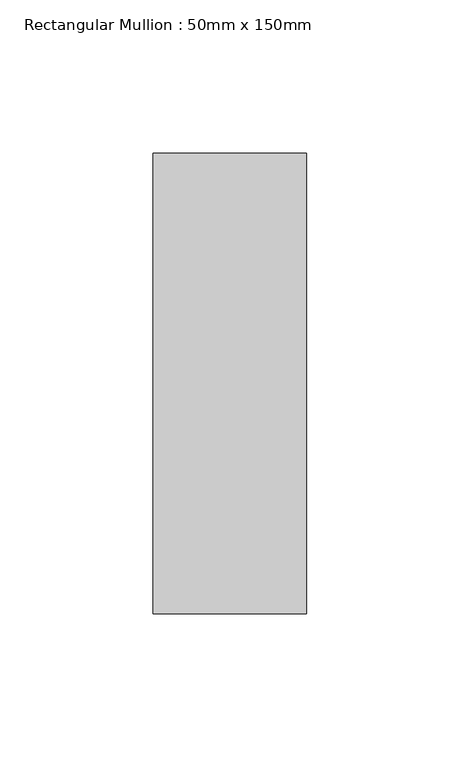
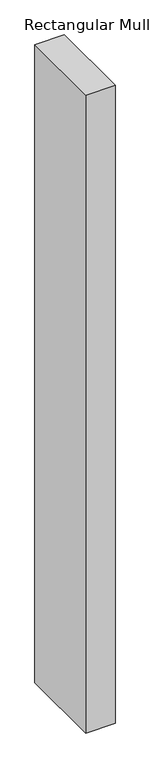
"""IFC4 building model written with IfcOpenShell, lengths in millimetres: member geometry, Rectangular Mullion : 50mm x 150mm."""

from ifc_helpers import new_model, si_unit, frame, origin, place, context, project, spatial, polyline, outline, extrude, source, transform, mapped, element, save


def rectangular_mullion_50mm_x_150mm_770ce294(model_context):
    return source(origin(), model_context, "Body", "SweptSolid", [
        extrude(outline(polyline([(0.0, 75.0), (0.0, -75.0), (-50.0, -75.0), (-50.0, 75.0), (0.0, 75.0)])), frame((0.0, 0.0, -1150.0), z_axis=(0.0, 0.0, 1.0), x_axis=(1.0, 0.0, 0.0)), (0.0, 0.0, 1.0), 1150.0),
    ])


if __name__ == "__main__":
    model = new_model("IFC4")
    model_context = context("Model", 3, world=origin())
    ifc_project = project(units=[si_unit("LENGTHUNIT", "METRE", prefix="MILLI")], contexts=[model_context])
    site = spatial("IfcSite", under=ifc_project)
    building = spatial("IfcBuilding", under=site)
    placement = place(None, origin())
    rectangular_mullion_50mm_x_150mm_shape = rectangular_mullion_50mm_x_150mm_770ce294(model_context)
    element("IfcMember", 1, ObjectType="Rectangular Mullion : 50mm x 150mm", at=placement, inside=building, context=model_context, shape_type="MappedRepresentation", body=[
        mapped(rectangular_mullion_50mm_x_150mm_shape, transform((0.0, 0.0, 0.0), x_axis=(1.0, 0.0, 0.0), y_axis=(0.0, 1.0, 0.0), z_axis=(0.0, 0.0, 1.0))),
    ])
    save(model, "model.ifc")
